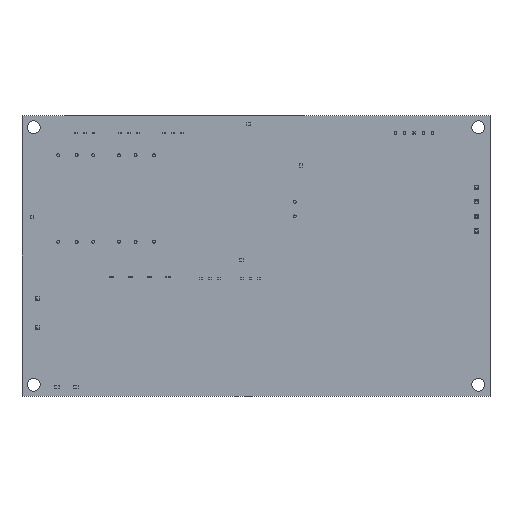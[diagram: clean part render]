
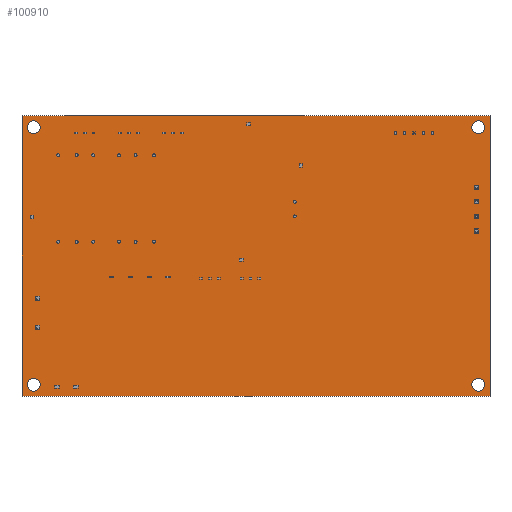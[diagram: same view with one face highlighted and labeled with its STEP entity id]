
A CAD part, front view. The second image highlights one B-rep face of the part: STEP entity #100910.
In plain terms, the highlighted planar face has unit normal (0, -1, 0).
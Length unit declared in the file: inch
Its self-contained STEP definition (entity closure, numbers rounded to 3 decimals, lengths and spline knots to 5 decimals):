
#60 = AXIS2_PLACEMENT_3D ( 'NONE', #170698, #8326, #52131 ) ;
#3752 = CARTESIAN_POINT ( 'NONE',  ( 0., 0., 0. ) ) ;
#4939 = DIRECTION ( 'NONE',  ( 0., -1., 0. ) ) ;
#7317 = EDGE_CURVE ( 'NONE', #95058, #54043, #57738, .T. ) ;
#8326 = DIRECTION ( 'NONE',  ( 0., -1., 0. ) ) ;
#8749 = ORIENTED_EDGE ( 'NONE', *, *, #69306, .F. ) ;
#12117 = FACE_BOUND ( 'NONE', #133008, .T. ) ;
#13927 = VERTEX_POINT ( 'NONE', #95503 ) ;
#14980 = ORIENTED_EDGE ( 'NONE', *, *, #44815, .F. ) ;
#20045 = ORIENTED_EDGE ( 'NONE', *, *, #80770, .F. ) ;
#21111 = DIRECTION ( 'NONE',  ( 0., 0., 1. ) ) ;
#22369 = DIRECTION ( 'NONE',  ( 0., -1., 0. ) ) ;
#24136 = AXIS2_PLACEMENT_3D ( 'NONE', #121564, #4939, #107955 ) ;
#25299 = CARTESIAN_POINT ( 'NONE',  ( -2.375, 0., -1.375 ) ) ;
#27414 = VECTOR ( 'NONE', #165923, 39.37008 ) ;
#27751 = DIRECTION ( 'NONE',  ( -1., 0., 0. ) ) ;
#29645 = DIRECTION ( 'NONE',  ( 0., -1., 0. ) ) ;
#32383 = VERTEX_POINT ( 'NONE', #55574 ) ;
#39462 = ORIENTED_EDGE ( 'NONE', *, *, #165426, .F. ) ;
#40549 = CARTESIAN_POINT ( 'NONE',  ( -2.5, 0., 1.5 ) ) ;
#43797 = DIRECTION ( 'NONE',  ( 0., 0., 1. ) ) ;
#44483 = CARTESIAN_POINT ( 'NONE',  ( -2.375, 0., -1.375 ) ) ;
#44815 = EDGE_CURVE ( 'NONE', #185661, #162780, #74140, .T. ) ;
#47491 = ORIENTED_EDGE ( 'NONE', *, *, #7317, .F. ) ;
#49338 = DIRECTION ( 'NONE',  ( 0., -1., 0. ) ) ;
#51370 = FACE_BOUND ( 'NONE', #97997, .T. ) ;
#51805 = CARTESIAN_POINT ( 'NONE',  ( -2.5, 0., -1.5 ) ) ;
#52131 = DIRECTION ( 'NONE',  ( 0., 0., 1. ) ) ;
#52828 = CARTESIAN_POINT ( 'NONE',  ( 2.375, 0., 1.375 ) ) ;
#53736 = CARTESIAN_POINT ( 'NONE',  ( 2.375, 0., 1.4439 ) ) ;
#54043 = VERTEX_POINT ( 'NONE', #51805 ) ;
#55392 = ORIENTED_EDGE ( 'NONE', *, *, #125012, .F. ) ;
#55574 = CARTESIAN_POINT ( 'NONE',  ( -2.375, 0., 1.3061 ) ) ;
#57331 = LINE ( 'NONE', #180741, #27414 ) ;
#57738 = LINE ( 'NONE', #118554, #126988 ) ;
#65379 = VERTEX_POINT ( 'NONE', #40549 ) ;
#65432 = CARTESIAN_POINT ( 'NONE',  ( 2.375, 0., -1.3061 ) ) ;
#67825 = ORIENTED_EDGE ( 'NONE', *, *, #94796, .F. ) ;
#69306 = EDGE_CURVE ( 'NONE', #13927, #94616, #151532, .T. ) ;
#74008 = CARTESIAN_POINT ( 'NONE',  ( 0., 0., 1.5 ) ) ;
#74080 = CIRCLE ( 'NONE', #122201, 0.0689 ) ;
#74140 = CIRCLE ( 'NONE', #60, 0.0689 ) ;
#76313 = CARTESIAN_POINT ( 'NONE',  ( -2.375, 0., 1.4439 ) ) ;
#77660 = CARTESIAN_POINT ( 'NONE',  ( -2.375, 0., -1.4439 ) ) ;
#80647 = EDGE_CURVE ( 'NONE', #65379, #133807, #158934, .T. ) ;
#80770 = EDGE_CURVE ( 'NONE', #133807, #95058, #57331, .T. ) ;
#80920 = CIRCLE ( 'NONE', #24136, 0.0689 ) ;
#84377 = EDGE_LOOP ( 'NONE', ( #179664, #67825 ) ) ;
#85165 = EDGE_CURVE ( 'NONE', #183007, #127148, #105604, .T. ) ;
#89154 = VERTEX_POINT ( 'NONE', #76313 ) ;
#90570 = FACE_BOUND ( 'NONE', #84377, .T. ) ;
#90713 = PLANE ( 'NONE',  #100985 ) ;
#91186 = AXIS2_PLACEMENT_3D ( 'NONE', #44483, #29645, #163051 ) ;
#93531 = EDGE_LOOP ( 'NONE', ( #20045, #166630, #134131, #47491 ) ) ;
#94616 = VERTEX_POINT ( 'NONE', #77660 ) ;
#94796 = EDGE_CURVE ( 'NONE', #127148, #183007, #190372, .T. ) ;
#95058 = VERTEX_POINT ( 'NONE', #156913 ) ;
#95503 = CARTESIAN_POINT ( 'NONE',  ( -2.375, 0., -1.3061 ) ) ;
#97997 = EDGE_LOOP ( 'NONE', ( #124141, #14980 ) ) ;
#100525 = ORIENTED_EDGE ( 'NONE', *, *, #142158, .F. ) ;
#100910 = ADVANCED_FACE ( 'NONE', ( #90570, #161999, #51370, #12117, #180458 ), #90713, .F. ) ;
#100985 = AXIS2_PLACEMENT_3D ( 'NONE', #3752, #122302, #136505 ) ;
#104454 = DIRECTION ( 'NONE',  ( 0., 0., 1. ) ) ;
#105544 = DIRECTION ( 'NONE',  ( 1., 0., 0. ) ) ;
#105604 = CIRCLE ( 'NONE', #145397, 0.0689 ) ;
#107955 = DIRECTION ( 'NONE',  ( 0., 0., 1. ) ) ;
#112066 = DIRECTION ( 'NONE',  ( 0., 0., 1. ) ) ;
#112866 = LINE ( 'NONE', #165075, #168250 ) ;
#116739 = EDGE_CURVE ( 'NONE', #162780, #185661, #74080, .T. ) ;
#117227 = DIRECTION ( 'NONE',  ( 0., -1., 0. ) ) ;
#118554 = CARTESIAN_POINT ( 'NONE',  ( 0., 0., -1.5 ) ) ;
#121564 = CARTESIAN_POINT ( 'NONE',  ( -2.375, 0., 1.375 ) ) ;
#122201 = AXIS2_PLACEMENT_3D ( 'NONE', #146304, #117227, #43797 ) ;
#122302 = DIRECTION ( 'NONE',  ( 0., 1., 0. ) ) ;
#124141 = ORIENTED_EDGE ( 'NONE', *, *, #116739, .F. ) ;
#125012 = EDGE_CURVE ( 'NONE', #32383, #89154, #153730, .T. ) ;
#126189 = CARTESIAN_POINT ( 'NONE',  ( -2.375, 0., 1.375 ) ) ;
#126988 = VECTOR ( 'NONE', #27751, 39.37008 ) ;
#127148 = VERTEX_POINT ( 'NONE', #187091 ) ;
#129029 = AXIS2_PLACEMENT_3D ( 'NONE', #153153, #49338, #152523 ) ;
#130456 = EDGE_LOOP ( 'NONE', ( #100525, #55392 ) ) ;
#133008 = EDGE_LOOP ( 'NONE', ( #8749, #39462 ) ) ;
#133807 = VERTEX_POINT ( 'NONE', #136073 ) ;
#134131 = ORIENTED_EDGE ( 'NONE', *, *, #152471, .F. ) ;
#136073 = CARTESIAN_POINT ( 'NONE',  ( 2.5, 0., 1.5 ) ) ;
#136505 = DIRECTION ( 'NONE',  ( 0., 0., 1. ) ) ;
#141652 = CIRCLE ( 'NONE', #144391, 0.0689 ) ;
#142158 = EDGE_CURVE ( 'NONE', #89154, #32383, #80920, .T. ) ;
#144391 = AXIS2_PLACEMENT_3D ( 'NONE', #25299, #171618, #155631 ) ;
#145397 = AXIS2_PLACEMENT_3D ( 'NONE', #52828, #156627, #112066 ) ;
#146304 = CARTESIAN_POINT ( 'NONE',  ( 2.375, 0., -1.375 ) ) ;
#151532 = CIRCLE ( 'NONE', #91186, 0.0689 ) ;
#152471 = EDGE_CURVE ( 'NONE', #54043, #65379, #112866, .T. ) ;
#152523 = DIRECTION ( 'NONE',  ( 0., 0., 1. ) ) ;
#153153 = CARTESIAN_POINT ( 'NONE',  ( 2.375, 0., 1.375 ) ) ;
#153730 = CIRCLE ( 'NONE', #163741, 0.0689 ) ;
#155631 = DIRECTION ( 'NONE',  ( 0., 0., 1. ) ) ;
#156627 = DIRECTION ( 'NONE',  ( 0., -1., 0. ) ) ;
#156913 = CARTESIAN_POINT ( 'NONE',  ( 2.5, 0., -1.5 ) ) ;
#158934 = LINE ( 'NONE', #74008, #172756 ) ;
#161999 = FACE_BOUND ( 'NONE', #130456, .T. ) ;
#162780 = VERTEX_POINT ( 'NONE', #65432 ) ;
#163051 = DIRECTION ( 'NONE',  ( 0., 0., 1. ) ) ;
#163741 = AXIS2_PLACEMENT_3D ( 'NONE', #126189, #22369, #21111 ) ;
#165075 = CARTESIAN_POINT ( 'NONE',  ( -2.5, 0., 0. ) ) ;
#165426 = EDGE_CURVE ( 'NONE', #94616, #13927, #141652, .T. ) ;
#165923 = DIRECTION ( 'NONE',  ( 0., 0., -1. ) ) ;
#166630 = ORIENTED_EDGE ( 'NONE', *, *, #80647, .F. ) ;
#168250 = VECTOR ( 'NONE', #104454, 39.37008 ) ;
#170698 = CARTESIAN_POINT ( 'NONE',  ( 2.375, 0., -1.375 ) ) ;
#171618 = DIRECTION ( 'NONE',  ( 0., -1., 0. ) ) ;
#172756 = VECTOR ( 'NONE', #105544, 39.37008 ) ;
#179664 = ORIENTED_EDGE ( 'NONE', *, *, #85165, .F. ) ;
#180458 = FACE_OUTER_BOUND ( 'NONE', #93531, .T. ) ;
#180741 = CARTESIAN_POINT ( 'NONE',  ( 2.5, 0., 0. ) ) ;
#183007 = VERTEX_POINT ( 'NONE', #53736 ) ;
#185661 = VERTEX_POINT ( 'NONE', #187332 ) ;
#187091 = CARTESIAN_POINT ( 'NONE',  ( 2.375, 0., 1.3061 ) ) ;
#187332 = CARTESIAN_POINT ( 'NONE',  ( 2.375, 0., -1.4439 ) ) ;
#190372 = CIRCLE ( 'NONE', #129029, 0.0689 ) ;
